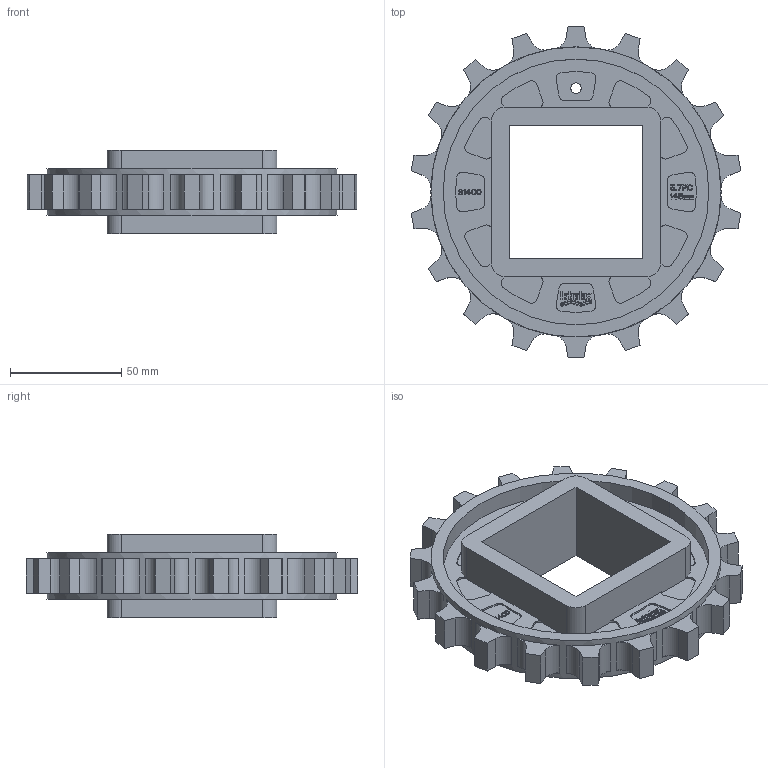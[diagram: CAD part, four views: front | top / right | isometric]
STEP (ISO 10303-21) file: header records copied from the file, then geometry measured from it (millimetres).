
FILE_DESCRIPTION((''),'2;1');
FILE_NAME('S1400_SPROCKET_57X25_60_SQ','2008-12-12T',('jmumphre'),(''),'PRO/ENGINEER BY PARAMETRIC TECHNOLOGY CORPORATION, 2008150','PRO/ENGINEER BY PARAMETRIC TECHNOLOGY CORPORATION, 2008150','');
FILE_SCHEMA(('CONFIG_CONTROL_DESIGN'));
Length unit declared in the file: inch
Products named in the file (1): S1400_SPROCKET_57X25_60_SQ
Bounding box: 148 x 149.05 x 37.59 mm (x, y, z)
Volume: 174414.2 mm3; surface area: 60783.2 mm2
Topology: 1 solids, 1 shells, 996 faces, 2781 edges, 1854 vertices
Faces by surface type: plane 728, cylinder 268
Entity records: 31921 total; most frequent: CARTESIAN_POINT 5631, ORIENTED_EDGE 5562, DIRECTION 5361, EDGE_CURVE 2781, VECTOR 2193, LINE 2193, VERTEX_POINT 1854, AXIS2_PLACEMENT_3D 1584
